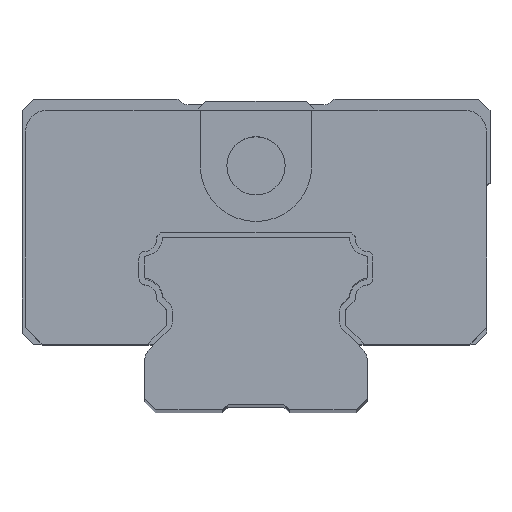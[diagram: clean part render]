
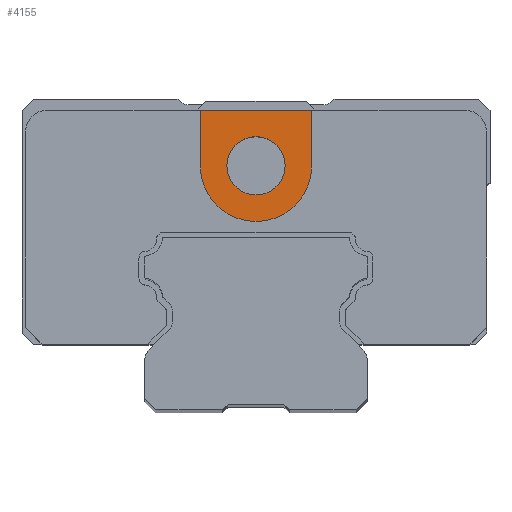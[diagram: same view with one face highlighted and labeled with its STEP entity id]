
A CAD part, top view. The second image highlights one B-rep face of the part: STEP entity #4155.
In plain terms, the highlighted planar face has unit normal (0, 0, 1).
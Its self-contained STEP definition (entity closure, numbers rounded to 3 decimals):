
#689=DIRECTION('',(1.,0.,0.));
#690=VECTOR('',#689,10.);
#691=CARTESIAN_POINT('',(-5.,11.5,38.5));
#692=LINE('',#691,#690);
#717=DIRECTION('',(0.,1.,0.));
#718=VECTOR('',#717,5.);
#719=CARTESIAN_POINT('',(5.,6.5,38.5));
#720=LINE('',#719,#718);
#721=CARTESIAN_POINT('',(0.,6.5,38.5));
#722=DIRECTION('',(0.,0.,1.));
#723=DIRECTION('',(-1.,0.,0.));
#724=AXIS2_PLACEMENT_3D('',#721,#722,#723);
#726=DIRECTION('',(0.,-1.,0.));
#727=VECTOR('',#726,5.);
#728=CARTESIAN_POINT('',(-5.,11.5,38.5));
#729=LINE('',#728,#727);
#730=CARTESIAN_POINT('',(0.,6.5,38.5));
#731=DIRECTION('',(0.,0.,1.));
#732=DIRECTION('',(1.,0.,0.));
#733=AXIS2_PLACEMENT_3D('',#730,#731,#732);
#739=CARTESIAN_POINT('',(0.,6.5,38.5));
#740=DIRECTION('',(0.,0.,1.));
#741=DIRECTION('',(-1.,0.,0.));
#742=AXIS2_PLACEMENT_3D('',#739,#740,#741);
#3038=CARTESIAN_POINT('',(-5.,6.5,38.5));
#3039=CARTESIAN_POINT('',(5.,6.5,38.5));
#3040=VERTEX_POINT('',#3038);
#3041=VERTEX_POINT('',#3039);
#3050=CARTESIAN_POINT('',(-5.,11.5,38.5));
#3051=CARTESIAN_POINT('',(5.,11.5,38.5));
#3052=VERTEX_POINT('',#3050);
#3053=VERTEX_POINT('',#3051);
#3054=CARTESIAN_POINT('',(2.617,6.5,38.5));
#3055=CARTESIAN_POINT('',(-2.617,6.5,38.5));
#3056=VERTEX_POINT('',#3054);
#3057=VERTEX_POINT('',#3055);
#4138=CARTESIAN_POINT('',(-7.,12.5,38.5));
#4139=DIRECTION('',(0.,0.,1.));
#4140=DIRECTION('',(1.,0.,0.));
#4141=AXIS2_PLACEMENT_3D('',#4138,#4139,#4140);
#4142=PLANE('',#4141);
#4143=ORIENTED_EDGE('',*,*,#4107,.T.);
#4144=ORIENTED_EDGE('',*,*,#4067,.F.);
#4145=ORIENTED_EDGE('',*,*,#4082,.F.);
#4146=ORIENTED_EDGE('',*,*,#4096,.F.);
#4147=EDGE_LOOP('',(#4143,#4144,#4145,#4146));
#4148=FACE_OUTER_BOUND('',#4147,.F.);
#4150=ORIENTED_EDGE('',*,*,#4149,.T.);
#4152=ORIENTED_EDGE('',*,*,#4151,.T.);
#4153=EDGE_LOOP('',(#4150,#4152));
#4154=FACE_BOUND('',#4153,.F.);
#4155=ADVANCED_FACE('',(#4148,#4154),#4142,.T.);
#725=CIRCLE('',#724,5.);
#734=CIRCLE('',#733,2.617);
#743=CIRCLE('',#742,2.617);
#4067=EDGE_CURVE('',#3041,#3053,#720,.T.);
#4082=EDGE_CURVE('',#3040,#3041,#725,.T.);
#4096=EDGE_CURVE('',#3052,#3040,#729,.T.);
#4107=EDGE_CURVE('',#3052,#3053,#692,.T.);
#4149=EDGE_CURVE('',#3056,#3057,#734,.T.);
#4151=EDGE_CURVE('',#3057,#3056,#743,.T.);
